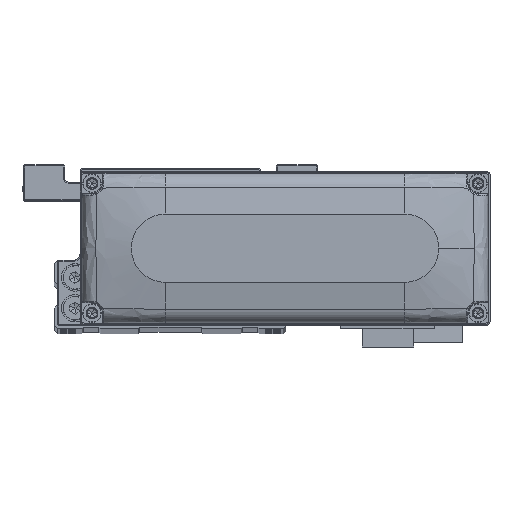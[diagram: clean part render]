
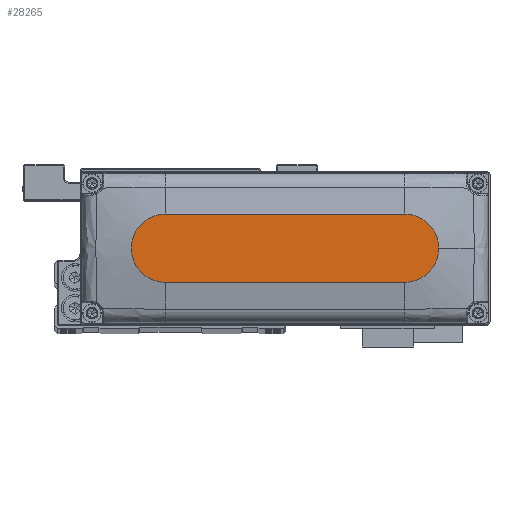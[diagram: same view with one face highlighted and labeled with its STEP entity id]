
A CAD part, top view. The second image highlights one B-rep face of the part: STEP entity #28265.
In plain terms, the highlighted planar face has unit normal (0, 0, 1).
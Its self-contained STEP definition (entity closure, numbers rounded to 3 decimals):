
#1362 = CARTESIAN_POINT ( 'NONE',  ( 45., 0., 28. ) ) ;
#3162 = EDGE_CURVE ( 'NONE', #31255, #10749, #5448, .T. ) ;
#3874 = VERTEX_POINT ( 'NONE', #22729 ) ;
#4642 = DIRECTION ( 'NONE',  ( -1., 0., 0. ) ) ;
#4651 = AXIS2_PLACEMENT_3D ( 'NONE', #22632, #35402, #6700 ) ;
#4670 = CARTESIAN_POINT ( 'NONE',  ( 35., 0., 28. ) ) ;
#5140 = EDGE_CURVE ( 'NONE', #23309, #31255, #20572, .T. ) ;
#5448 = CIRCLE ( 'NONE', #28877, 10. ) ;
#6700 = DIRECTION ( 'NONE',  ( 1., 0., 0. ) ) ;
#6990 = CARTESIAN_POINT ( 'NONE',  ( -35., -10., 28. ) ) ;
#9529 = EDGE_LOOP ( 'NONE', ( #23786, #26327, #15409, #22038, #39475 ) ) ;
#10628 = DIRECTION ( 'NONE',  ( 0., 0., 1. ) ) ;
#10749 = VERTEX_POINT ( 'NONE', #6990 ) ;
#11480 = CARTESIAN_POINT ( 'NONE',  ( -35., 0., 28. ) ) ;
#11700 = AXIS2_PLACEMENT_3D ( 'NONE', #39318, #10628, #23407 ) ;
#12907 = LINE ( 'NONE', #25689, #16250 ) ;
#13791 = FACE_OUTER_BOUND ( 'NONE', #9529, .T. ) ;
#15409 = ORIENTED_EDGE ( 'NONE', *, *, #23532, .T. ) ;
#16250 = VECTOR ( 'NONE', #38465, 1000. ) ;
#17434 = DIRECTION ( 'NONE',  ( 0., 0., 1. ) ) ;
#17541 = CIRCLE ( 'NONE', #40895, 10. ) ;
#20572 = LINE ( 'NONE', #33324, #37028 ) ;
#22038 = ORIENTED_EDGE ( 'NONE', *, *, #34630, .T. ) ;
#22632 = CARTESIAN_POINT ( 'NONE',  ( 35., 0., 28. ) ) ;
#22694 = CIRCLE ( 'NONE', #4651, 10. ) ;
#22729 = CARTESIAN_POINT ( 'NONE',  ( 35., -10., 28. ) ) ;
#23309 = VERTEX_POINT ( 'NONE', #40134 ) ;
#23407 = DIRECTION ( 'NONE',  ( 1., 0., 0. ) ) ;
#23532 = EDGE_CURVE ( 'NONE', #10749, #3874, #12907, .T. ) ;
#23786 = ORIENTED_EDGE ( 'NONE', *, *, #5140, .T. ) ;
#24267 = DIRECTION ( 'NONE',  ( 0., 0., 1. ) ) ;
#25689 = CARTESIAN_POINT ( 'NONE',  ( -35., -10., 28. ) ) ;
#26327 = ORIENTED_EDGE ( 'NONE', *, *, #3162, .T. ) ;
#26559 = PLANE ( 'NONE',  #11700 ) ;
#28265 = ADVANCED_FACE ( 'NONE', ( #13791 ), #26559, .T. ) ;
#28877 = AXIS2_PLACEMENT_3D ( 'NONE', #11480, #24267, #37055 ) ;
#29830 = VERTEX_POINT ( 'NONE', #1362 ) ;
#30209 = DIRECTION ( 'NONE',  ( 1., 0., 0. ) ) ;
#31255 = VERTEX_POINT ( 'NONE', #34811 ) ;
#31824 = EDGE_CURVE ( 'NONE', #29830, #23309, #22694, .T. ) ;
#33324 = CARTESIAN_POINT ( 'NONE',  ( -35., 10., 28. ) ) ;
#34630 = EDGE_CURVE ( 'NONE', #3874, #29830, #17541, .T. ) ;
#34811 = CARTESIAN_POINT ( 'NONE',  ( -35., 10., 28. ) ) ;
#35402 = DIRECTION ( 'NONE',  ( 0., 0., 1. ) ) ;
#37028 = VECTOR ( 'NONE', #4642, 1000. ) ;
#37055 = DIRECTION ( 'NONE',  ( 1., 0., 0. ) ) ;
#38465 = DIRECTION ( 'NONE',  ( 1., 0., 0. ) ) ;
#39318 = CARTESIAN_POINT ( 'NONE',  ( 0., 0., 28. ) ) ;
#39475 = ORIENTED_EDGE ( 'NONE', *, *, #31824, .T. ) ;
#40134 = CARTESIAN_POINT ( 'NONE',  ( 35., 10., 28. ) ) ;
#40895 = AXIS2_PLACEMENT_3D ( 'NONE', #4670, #17434, #30209 ) ;
